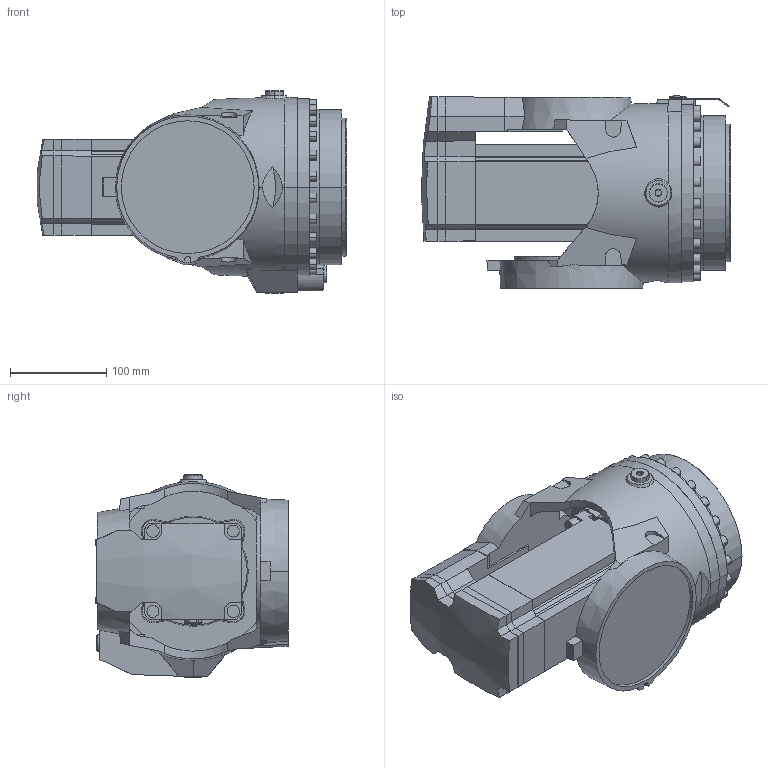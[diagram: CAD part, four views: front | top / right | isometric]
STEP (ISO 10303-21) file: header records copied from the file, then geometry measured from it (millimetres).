
FILE_DESCRIPTION (( 'STEP AP214' ), '1' );
FILE_NAME ('IRB6720-LID_215kg-265_OC_00_LINK05_CAD.step', '2026-05-26T07:43:40', ( '' ), ( '' ), 'SwSTEP 2.0', 'SolidWorks 2024', '' );
FILE_SCHEMA (( 'AUTOMOTIVE_DESIGN' ));
Length unit declared in the file: millimetre
Products named in the file (1): IRB6720-LID_215kg-265_OC_00_LINK05_CAD
Bounding box: 321.19 x 200.3 x 210 mm (x, y, z)
Volume: 5823460.1 mm3; surface area: 372789 mm2
Topology: 1 solids, 1 shells, 635 faces, 1646 edges, 1069 vertices
Faces by surface type: plane 361, cylinder 151, cone 85, bspline 21, torus 17
Entity records: 28943 total; most frequent: CARTESIAN_POINT 6746, ORIENTED_EDGE 3292, DIRECTION 2990, EDGE_CURVE 1646, VERTEX_POINT 1069, AXIS2_PLACEMENT_3D 1037, LINE 916, VECTOR 916
